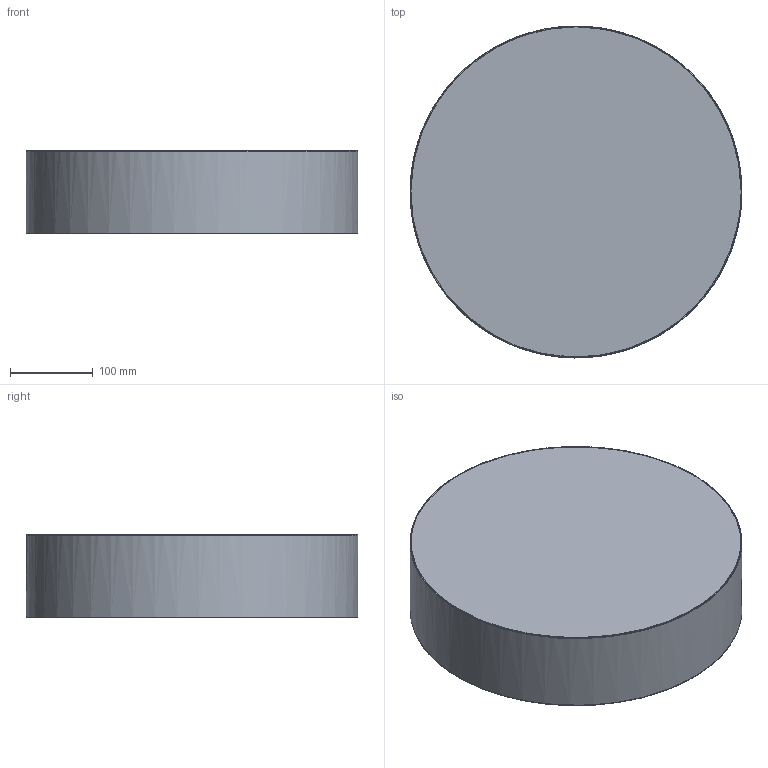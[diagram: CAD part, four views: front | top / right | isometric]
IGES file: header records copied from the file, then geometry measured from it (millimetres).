
Global section: file name: C:\Users\EQUIPO\Desktop\COLECCIONES ACB MODELADAS 3D OK\ISIA\isia-plafon-3453-40-led (IGES).igs; native system: Rhinoceros ( Oct  8 2013 ); preprocessor: Trout Lake IGES 012 Oct  8 2013; date: 190207.121208; units: millimetre
Bounding box: 399.99 x 399.98 x 100 mm (x, y, z)
Surface area: 840286.4 mm2 (no closed solid volume)
Topology: 0 solids, 0 shells, 12 faces, 126 edges, 120 vertices
Faces by surface type: bspline 12
